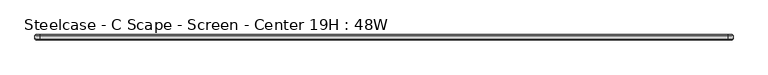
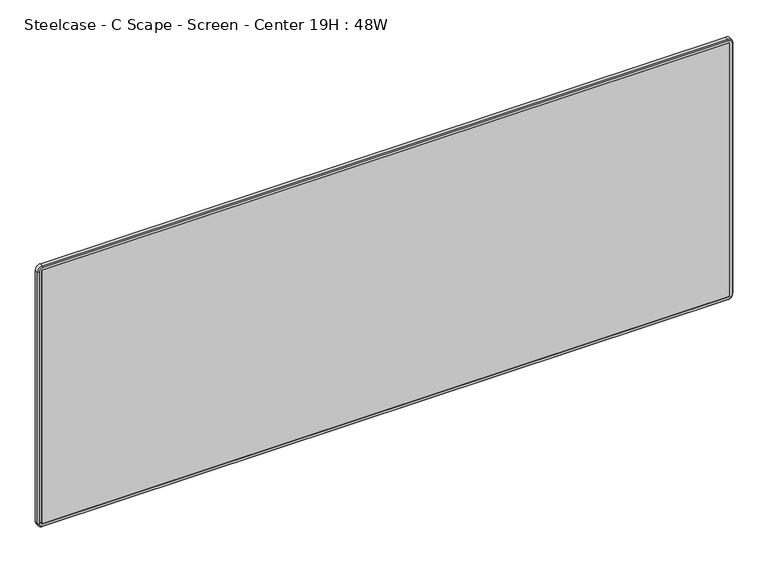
"""IFC4 building model written with IfcOpenShell, lengths in millimetres: furniture geometry, Steelcase - C Scape - Screen - Center 19H : 48W."""

from ifc_helpers import new_model, si_unit, frame, origin, place, context, project, spatial, polyline, circle_curve, outline, extrude, source, transform, mapped, element, save
from ifc_brep_helpers import plane_surface, cylinder_surface, revolved_surface, advanced_brep


def steelcase_c_scape_screen_center_19h_48w_724a8935(model_context):
    return source(origin(), model_context, "Body", "SolidModel", [
        advanced_brep(
        [(6.3501994, -7.9375, 1222.6655677), (8.21859, -7.9375, 1224.5339583), (8.21859, -17.4625, 1224.5339583), (6.3501994, -17.4625, 1222.6655677), (0.0002237, -9.6896209, 1222.6655677), (8.21859, -9.6896209, 1230.8839341), (8.21859, -7.9375, 1229.1318132), (1.7523445, -7.9375, 1222.6655677), (0.0002237, -15.7098203, 1222.6655677), (8.21859, -15.7098203, 1230.8839341), (1.7529034, -17.4625, 1222.6655677), (8.21859, -17.4625, 1229.1312544), (6.3501994, -17.4625, 756.5023005), (6.3501994, -7.9375, 756.5023005), (1.7523445, -7.9375, 756.5023005), (0.0002237, -9.6896209, 756.5023005), (0.0002237, -15.7098203, 756.5023005), (1.7529034, -17.4625, 756.5023005), (8.21859, -7.9375, 754.6339099), (8.21859, -17.4625, 754.6339099), (8.21859, -9.6896209, 748.2839341), (8.21859, -7.9375, 750.036055), (8.21859, -15.7098203, 748.2839341), (8.21859, -17.4625, 750.0366139), (1207.806615, -17.4625, 754.6339099), (1207.806615, -7.9375, 754.6339099), (1207.806615, -7.9375, 750.036055), (1207.806615, -9.6896209, 748.2839341), (1207.806615, -15.7098203, 748.2839341), (1207.806615, -17.4625, 750.0366139), (1209.6750056, -7.9375, 756.5023005), (1209.6750056, -17.4625, 756.5023005), (1216.0249814, -9.6896209, 756.5023005), (1214.2728605, -7.9375, 756.5023005), (1216.0249814, -15.7098203, 756.5023005), (1214.2723017, -17.4625, 756.5023005), (1209.6750056, -17.4625, 1222.6655677), (1209.6750056, -7.9375, 1222.6655677), (1214.2728605, -7.9375, 1222.6655677), (1216.0249814, -9.6896209, 1222.6655677), (1216.0249814, -15.7098203, 1222.6655677), (1214.2723017, -17.4625, 1222.6655677), (1207.806615, -7.9375, 1224.5339583), (1207.806615, -17.4625, 1224.5339583), (1207.806615, -7.9375, 1229.1318132), (1207.806615, -9.6896209, 1230.8839341), (1207.806615, -15.7098203, 1230.8839341), (1207.806615, -17.4625, 1229.1312544)],
        [
            (0, 1, circle_curve(frame((8.21859, -7.9375, 1222.6655677), z_axis=(0.0, 1.0, 0.0), x_axis=(0.0, 0.0, 1.0)), 1.8683906)),
            (1, 2),
            (2, 3, circle_curve(frame((8.21859, -17.4625, 1222.6655677), z_axis=(0.0, -1.0, 0.0), x_axis=(0.0, 0.0, 1.0)), 1.8683906)),
            (3, 0),
            (4, 5, circle_curve(frame((8.21859, -9.6896209, 1222.6655677), z_axis=(0.0, 1.0, 0.0), x_axis=(0.0, 0.0, 1.0)), 8.2183664)),
            (5, 6),
            (6, 7, circle_curve(frame((8.21859, -7.9375, 1222.6655677), z_axis=(0.0, -1.0, 0.0), x_axis=(0.0, 0.0, 1.0)), 6.4662455)),
            (7, 4),
            (8, 9, circle_curve(frame((8.21859, -15.7098203, 1222.6655677), z_axis=(0.0, 1.0, 0.0), x_axis=(0.0, 0.0, 1.0)), 8.2183664)),
            (9, 5),
            (4, 8),
            (10, 11, circle_curve(frame((8.21859, -17.4625, 1222.6655677), z_axis=(0.0, 1.0, 0.0), x_axis=(0.0, 0.0, 1.0)), 6.4656866)),
            (11, 9),
            (8, 10),
            (3, 12),
            (12, 13),
            (13, 0),
            (7, 14),
            (14, 15),
            (15, 4),
            (15, 16),
            (16, 8),
            (16, 17),
            (17, 10),
            (18, 13, circle_curve(frame((8.21859, -7.9375, 756.5023005), z_axis=(0.0, 1.0, 0.0), x_axis=(-1.0, 0.0, 0.0)), 1.8683906)),
            (12, 19, circle_curve(frame((8.21859, -17.4625, 756.5023005), z_axis=(0.0, -1.0, 0.0), x_axis=(-1.0, 0.0, 0.0)), 1.8683906)),
            (19, 18),
            (20, 15, circle_curve(frame((8.21859, -9.6896209, 756.5023005), z_axis=(0.0, 1.0, 0.0), x_axis=(-1.0, 0.0, 0.0)), 8.2183664)),
            (14, 21, circle_curve(frame((8.21859, -7.9375, 756.5023005), z_axis=(0.0, -1.0, 0.0), x_axis=(-1.0, 0.0, 0.0)), 6.4662455)),
            (21, 20),
            (22, 16, circle_curve(frame((8.21859, -15.7098203, 756.5023005), z_axis=(0.0, 1.0, 0.0), x_axis=(-1.0, 0.0, 0.0)), 8.2183664)),
            (20, 22),
            (23, 17, circle_curve(frame((8.21859, -17.4625, 756.5023005), z_axis=(0.0, 1.0, 0.0), x_axis=(-1.0, 0.0, 0.0)), 6.4656866)),
            (22, 23),
            (19, 24),
            (24, 25),
            (25, 18),
            (21, 26),
            (26, 27),
            (27, 20),
            (27, 28),
            (28, 22),
            (28, 29),
            (29, 23),
            (30, 25, circle_curve(frame((1207.806615, -7.9375, 756.5023005), z_axis=(0.0, 1.0, 0.0), x_axis=(0.0, 0.0, -1.0)), 1.8683906)),
            (24, 31, circle_curve(frame((1207.806615, -17.4625, 756.5023005), z_axis=(0.0, -1.0, 0.0), x_axis=(0.0, 0.0, -1.0)), 1.8683906)),
            (31, 30),
            (32, 27, circle_curve(frame((1207.806615, -9.6896209, 756.5023005), z_axis=(0.0, 1.0, 0.0), x_axis=(0.0, 0.0, -1.0)), 8.2183664)),
            (26, 33, circle_curve(frame((1207.806615, -7.9375, 756.5023005), z_axis=(0.0, -1.0, 0.0), x_axis=(0.0, 0.0, -1.0)), 6.4662455)),
            (33, 32),
            (34, 28, circle_curve(frame((1207.806615, -15.7098203, 756.5023005), z_axis=(0.0, 1.0, 0.0), x_axis=(0.0, 0.0, -1.0)), 8.2183664)),
            (32, 34),
            (35, 29, circle_curve(frame((1207.806615, -17.4625, 756.5023005), z_axis=(0.0, 1.0, 0.0), x_axis=(0.0, 0.0, -1.0)), 6.4656866)),
            (34, 35),
            (31, 36),
            (36, 37),
            (37, 30),
            (33, 38),
            (38, 39),
            (39, 32),
            (39, 40),
            (40, 34),
            (40, 41),
            (41, 35),
            (42, 37, circle_curve(frame((1207.806615, -7.9375, 1222.6655677), z_axis=(0.0, 1.0, 0.0), x_axis=(1.0, 0.0, 0.0)), 1.8683906)),
            (36, 43, circle_curve(frame((1207.806615, -17.4625, 1222.6655677), z_axis=(0.0, -1.0, 0.0), x_axis=(1.0, 0.0, 0.0)), 1.8683906)),
            (43, 42),
            (44, 38, circle_curve(frame((1207.806615, -7.9375, 1222.6655677), z_axis=(0.0, 1.0, 0.0), x_axis=(1.0, 0.0, 0.0)), 6.4662455)),
            (6, 44),
            (42, 1),
            (45, 39, circle_curve(frame((1207.806615, -9.6896209, 1222.6655677), z_axis=(0.0, 1.0, 0.0), x_axis=(1.0, 0.0, 0.0)), 8.2183664)),
            (44, 45),
            (46, 40, circle_curve(frame((1207.806615, -15.7098203, 1222.6655677), z_axis=(0.0, 1.0, 0.0), x_axis=(1.0, 0.0, 0.0)), 8.2183664)),
            (45, 46),
            (47, 41, circle_curve(frame((1207.806615, -17.4625, 1222.6655677), z_axis=(0.0, 1.0, 0.0), x_axis=(1.0, 0.0, 0.0)), 6.4656866)),
            (46, 47),
            (47, 11),
            (2, 43),
            (5, 45),
            (9, 46),
        ],
        [
            revolved_surface(polyline([(8.21859, -17.4625, 1224.5339583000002), (8.21859, -7.9375, 1224.5339583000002)]), (8.21859, -7.9375, 1222.6655677), (0.0, -1.0, 0.0)),
            revolved_surface(polyline([(8.21859, -7.9375, 1229.1318132), (8.21859, -9.6896209, 1230.8839341)]), (8.21859, -7.9375, 1222.6655677), (0.0, -1.0, 0.0)),
            cylinder_surface(frame((8.21859, -7.9375, 1222.6655677), z_axis=(0.0, -1.0, 0.0), x_axis=(0.0, 0.0, 1.0)), 8.2183664),
            revolved_surface(polyline([(8.21859, -15.7098203, 1230.8839341), (8.21859, -17.4625, 1229.1312544)]), (8.21859, -7.9375, 1222.6655677), (0.0, -1.0, 0.0)),
            plane_surface(frame((6.3501994, -17.4625, 1222.6655677), z_axis=(1.0, 0.0, 0.0), x_axis=(0.0, 0.0, -1.0))),
            plane_surface(frame((1.7523445, -7.9375, 1222.6655677), z_axis=(-0.707106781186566, 0.707106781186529, 0.0), x_axis=(0.0, 0.0, -1.0))),
            plane_surface(frame((0.0002237, -9.6896209, 1222.6655677), z_axis=(-1.0, 0.0, 0.0), x_axis=(0.0, 0.0, -1.0))),
            plane_surface(frame((0.0002237, -15.7098203, 1222.6655677), z_axis=(-0.7071067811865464, -0.7071067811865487, 0.0), x_axis=(0.0, 0.0, -1.0))),
            revolved_surface(polyline([(6.350199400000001, -17.4625, 756.5023005), (6.350199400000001, -7.9375, 756.5023005)]), (8.21859, -7.9375, 756.5023005), (0.0, -1.0, 0.0)),
            revolved_surface(polyline([(1.7523445, -7.9375, 756.5023005), (0.0002237, -9.6896209, 756.5023005)]), (8.21859, -7.9375, 756.5023005), (0.0, -1.0, 0.0)),
            cylinder_surface(frame((8.21859, -7.9375, 756.5023005), z_axis=(0.0, -1.0, 0.0), x_axis=(-1.0, 0.0, 0.0)), 8.2183664),
            revolved_surface(polyline([(0.0002237, -15.7098203, 756.5023005), (1.7529034, -17.4625, 756.5023005)]), (8.21859, -7.9375, 756.5023005), (0.0, -1.0, 0.0)),
            plane_surface(frame((8.21859, -17.4625, 754.6339099), z_axis=(0.0, 0.0, 1.0), x_axis=(1.0, 0.0, 0.0))),
            plane_surface(frame((8.21859, -7.9375, 750.036055), z_axis=(0.0, 0.7071067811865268, -0.7071067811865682), x_axis=(1.0, 0.0, 0.0))),
            plane_surface(frame((8.21859, -9.6896209, 748.2839341), z_axis=(0.0, 0.0, -1.0), x_axis=(1.0, 0.0, 0.0))),
            plane_surface(frame((8.21859, -15.7098203, 748.2839341), z_axis=(0.0, -0.7071067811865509, -0.7071067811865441), x_axis=(1.0, 0.0, 0.0))),
            revolved_surface(polyline([(1207.806615, -17.4625, 754.6339099), (1207.806615, -7.9375, 754.6339099)]), (1207.806615, -7.9375, 756.5023005), (0.0, -1.0, 0.0)),
            revolved_surface(polyline([(1207.806615, -7.9375, 750.036055), (1207.806615, -9.6896209, 748.2839341)]), (1207.806615, -7.9375, 756.5023005), (0.0, -1.0, 0.0)),
            cylinder_surface(frame((1207.806615, -7.9375, 756.5023005), z_axis=(0.0, -1.0, 0.0), x_axis=(0.0, 0.0, -1.0)), 8.2183664),
            revolved_surface(polyline([(1207.806615, -15.7098203, 748.2839341), (1207.806615, -17.4625, 750.0366139)]), (1207.806615, -7.9375, 756.5023005), (0.0, -1.0, 0.0)),
            plane_surface(frame((1209.6750056, -17.4625, 756.5023005), z_axis=(-1.0, 0.0, 0.0), x_axis=(0.0, 0.0, 1.0))),
            plane_surface(frame((1214.2728605, -7.9375, 756.5023005), z_axis=(0.7071067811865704, 0.7071067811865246, 0.0), x_axis=(0.0, 0.0, 1.0))),
            plane_surface(frame((1216.0249814, -9.6896209, 756.5023005), z_axis=(1.0, 0.0, 0.0), x_axis=(0.0, 0.0, 1.0))),
            plane_surface(frame((1216.0249814, -15.7098203, 756.5023005), z_axis=(0.7071067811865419, -0.7071067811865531, 0.0), x_axis=(0.0, 0.0, 1.0))),
            revolved_surface(polyline([(1209.6750056, -17.4625, 1222.6655677), (1209.6750056, -7.9375, 1222.6655677)]), (1207.806615, -7.9375, 1222.6655677), (0.0, -1.0, 0.0)),
            plane_surface(frame((1207.806615, -7.9375, 1222.6655677), z_axis=(0.0, 1.0, 0.0), x_axis=(1.0, 0.0, 0.0))),
            revolved_surface(polyline([(1214.2728605, -7.9375, 1222.6655677), (1216.0249814, -9.6896209, 1222.6655677)]), (1207.806615, -7.9375, 1222.6655677), (0.0, -1.0, 0.0)),
            cylinder_surface(frame((1207.806615, -7.9375, 1222.6655677), z_axis=(0.0, -1.0, 0.0), x_axis=(1.0, 0.0, 0.0)), 8.2183664),
            revolved_surface(polyline([(1216.0249814, -15.7098203, 1222.6655677), (1214.2723017, -17.4625, 1222.6655677)]), (1207.806615, -7.9375, 1222.6655677), (0.0, -1.0, 0.0)),
            plane_surface(frame((1207.806615, -17.4625, 1222.6655677), z_axis=(0.0, -1.0, 0.0), x_axis=(1.0, 0.0, 0.0))),
            plane_surface(frame((1207.806615, -17.4625, 1224.5339583), z_axis=(0.0, 0.0, -1.0), x_axis=(-1.0, 0.0, 0.0))),
            plane_surface(frame((1207.806615, -7.9375, 1229.1318132), z_axis=(0.0, 0.7071067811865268, 0.7071067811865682), x_axis=(-1.0, 0.0, 0.0))),
            plane_surface(frame((1207.806615, -9.6896209, 1230.8839341), z_axis=(0.0, 0.0, 1.0), x_axis=(-1.0, 0.0, 0.0))),
            plane_surface(frame((1207.806615, -15.7098203, 1230.8839341), z_axis=(0.0, -0.7071067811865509, 0.7071067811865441), x_axis=(-1.0, 0.0, 0.0))),
        ],
        [
            (0, [[1, 2, 3, 4]]),
            (1, [[5, 6, 7, 8]]),
            (2, [[9, 10, -5, 11]]),
            (3, [[12, 13, -9, 14]]),
            (4, [[-4, 15, 16, 17]]),
            (5, [[-8, 18, 19, 20]]),
            (6, [[-11, -20, 21, 22]]),
            (7, [[-14, -22, 23, 24]]),
            (8, [[25, -16, 26, 27]]),
            (9, [[28, -19, 29, 30]]),
            (10, [[31, -21, -28, 32]]),
            (11, [[33, -23, -31, 34]]),
            (12, [[-27, 35, 36, 37]]),
            (13, [[-30, 38, 39, 40]]),
            (14, [[-32, -40, 41, 42]]),
            (15, [[-34, -42, 43, 44]]),
            (16, [[45, -36, 46, 47]]),
            (17, [[48, -39, 49, 50]]),
            (18, [[51, -41, -48, 52]]),
            (19, [[53, -43, -51, 54]]),
            (20, [[-47, 55, 56, 57]]),
            (21, [[-50, 58, 59, 60]]),
            (22, [[-52, -60, 61, 62]]),
            (23, [[-54, -62, 63, 64]]),
            (24, [[65, -56, 66, 67]]),
            (25, [[68, -58, -49, -38, -29, -18, -7, 69], [-37, -45, -57, -65, 70, -1, -17, -25]]),
            (26, [[71, -59, -68, 72]]),
            (27, [[73, -61, -71, 74]]),
            (28, [[75, -63, -73, 76]]),
            (29, [[-44, -53, -64, -75, 77, -12, -24, -33], [-66, -55, -46, -35, -26, -15, -3, 78]]),
            (30, [[-67, -78, -2, -70]]),
            (31, [[-72, -69, -6, 79]]),
            (32, [[-74, -79, -10, 80]]),
            (33, [[-76, -80, -13, -77]]),
        ],
    ),
        extrude(outline(polyline([(1209.6750056, -7.9375), (1209.6750056, -17.4625), (6.3501994, -17.4625), (6.3501994, -7.9375), (1209.6750056, -7.9375)])), frame((0.0, 0.0, 754.6339099), z_axis=(0.0, 0.0, 1.0), x_axis=(1.0, 0.0, 0.0)), (0.0, 0.0, 1.0), 469.9000484),
    ])


if __name__ == "__main__":
    model = new_model("IFC4")
    model_context = context("Model", 3, world=origin())
    ifc_project = project(units=[si_unit("LENGTHUNIT", "METRE", prefix="MILLI")], contexts=[model_context])
    site = spatial("IfcSite", under=ifc_project)
    building = spatial("IfcBuilding", under=site)
    placement = place(None, origin())
    steelcase_c_scape_screen_center_19h_48w_shape = steelcase_c_scape_screen_center_19h_48w_724a8935(model_context)
    element("IfcFurniture", 1, ObjectType="Steelcase - C Scape - Screen - Center 19H : 48W", at=placement, inside=building, context=model_context, shape_type="MappedRepresentation", body=[
        mapped(steelcase_c_scape_screen_center_19h_48w_shape, transform((0.0, 0.0, 0.0), x_axis=(1.0, 0.0, 0.0), y_axis=(0.0, 1.0, 0.0), z_axis=(0.0, 0.0, 1.0))),
    ])
    save(model, "model.ifc")
